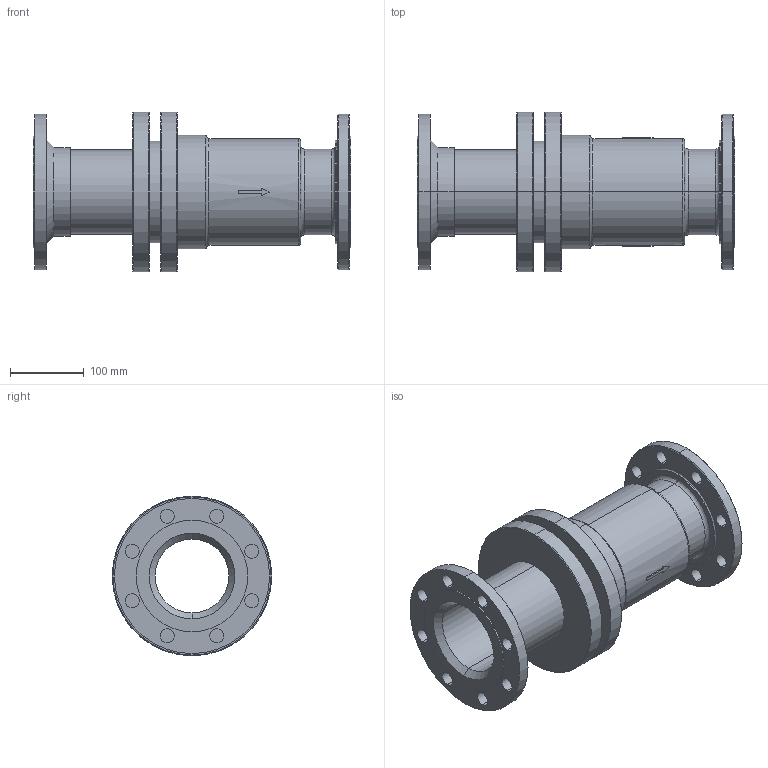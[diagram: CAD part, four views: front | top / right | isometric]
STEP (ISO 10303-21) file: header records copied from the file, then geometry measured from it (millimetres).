
FILE_DESCRIPTION( (''), '2;1');
FILE_NAME ('PC1027.9516.ES-10-100 100A_7931.stp','2025-07-30T13:02:13',(''),(''),'spGate 20.6.3 (****-****-****-****)','','');
FILE_SCHEMA (('AUTOMOTIVE_DESIGN'));
Length unit declared in the file: millimetre
Bounding box: 430 x 216 x 216 mm (x, y, z)
Volume: 4179434.6 mm3; surface area: 527931.2 mm2
Topology: 1 solids, 1 shells, 119 faces, 284 edges, 180 vertices
Faces by surface type: cylinder 58, bspline 32, plane 29
Entity records: 6121 total; most frequent: CARTESIAN_POINT 1165, ORIENTED_EDGE 568, DIRECTION 522, COLOUR_RGB 404, PRESENTATION_STYLE_ASSIGNMENT 404, STYLED_ITEM 404, EDGE_CURVE 284, DRAUGHTING_PRE_DEFINED_CURVE_FONT 284
